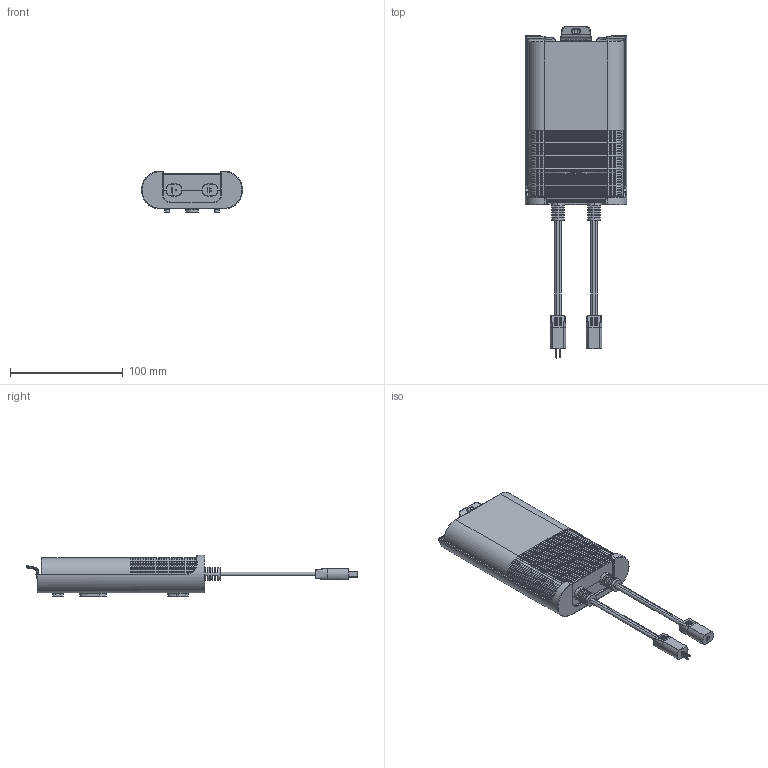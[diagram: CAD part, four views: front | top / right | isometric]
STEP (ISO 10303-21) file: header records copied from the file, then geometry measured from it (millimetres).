
FILE_DESCRIPTION (( 'STEP AP203' ), '1' );
FILE_NAME ('3D-TBB8-A-1.STEP', '2018-07-09T03:58:10', ( '' ), ( '' ), 'SwSTEP 2.0', 'SolidWorks 2015', '' );
FILE_SCHEMA (( 'CONFIG_CONTROL_DESIGN' ));
Length unit declared in the file: millimetre
Products named in the file (1): 3D-TBB8-A-1
Bounding box: 89.7 x 294.5 x 37 mm (x, y, z)
Volume: 373334.6 mm3; surface area: 109170.9 mm2
Topology: 11 solids, 11 shells, 2097 faces, 5110 edges, 3074 vertices
Faces by surface type: cylinder 789, plane 586, torus 574, bspline 74, sphere 50, cone 24
Entity records: 65299 total; most frequent: CARTESIAN_POINT 15716, DIRECTION 11110, ORIENTED_EDGE 10160, EDGE_CURVE 5080, AXIS2_PLACEMENT_3D 4502, VERTEX_POINT 3070, CIRCLE 2478, EDGE_LOOP 2170
